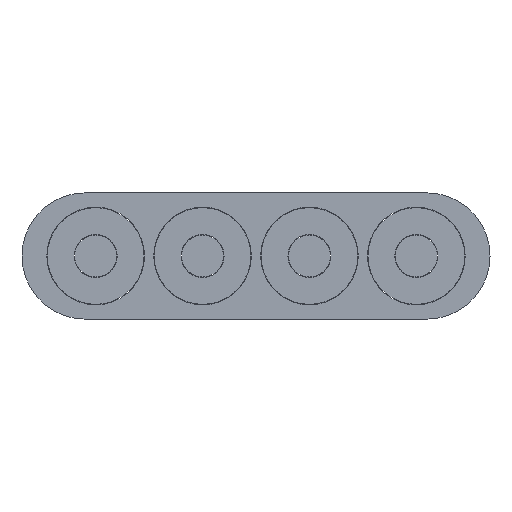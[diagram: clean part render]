
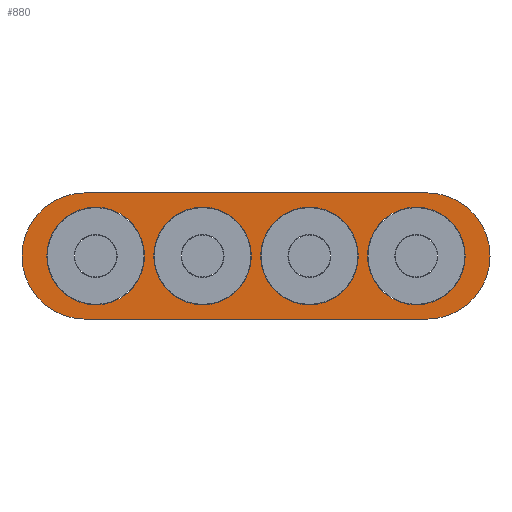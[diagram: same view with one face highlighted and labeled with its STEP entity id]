
A CAD part, front view. The second image highlights one B-rep face of the part: STEP entity #880.
In plain terms, the highlighted planar face has unit normal (0, -1, 0).
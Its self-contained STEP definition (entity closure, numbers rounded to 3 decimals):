
#5 = CARTESIAN_POINT ( 'NONE',  ( 4.06, 0., -0.75 ) ) ;
#8 = EDGE_LOOP ( 'NONE', ( #954, #567 ) ) ;
#23 = ORIENTED_EDGE ( 'NONE', *, *, #1377, .F. ) ;
#24 = AXIS2_PLACEMENT_3D ( 'NONE', #58, #768, #1474 ) ;
#55 = EDGE_LOOP ( 'NONE', ( #23, #1320, #1303, #686 ) ) ;
#58 = CARTESIAN_POINT ( 'NONE',  ( 0.125, 0., 0. ) ) ;
#93 = DIRECTION ( 'NONE',  ( 0., 1., 0. ) ) ;
#155 = VERTEX_POINT ( 'NONE', #864 ) ;
#174 = EDGE_CURVE ( 'NONE', #597, #839, #1157, .T. ) ;
#187 = CARTESIAN_POINT ( 'NONE',  ( 1.395, 0., 0. ) ) ;
#198 = DIRECTION ( 'NONE',  ( 0., 0., 1. ) ) ;
#206 = PLANE ( 'NONE',  #857 ) ;
#213 = CARTESIAN_POINT ( 'NONE',  ( 3.935, 0., 0. ) ) ;
#224 = DIRECTION ( 'NONE',  ( 0., 1., 0. ) ) ;
#267 = VERTEX_POINT ( 'NONE', #749 ) ;
#277 = CARTESIAN_POINT ( 'NONE',  ( 0.125, 0., 0.58 ) ) ;
#281 = VERTEX_POINT ( 'NONE', #1336 ) ;
#284 = CIRCLE ( 'NONE', #1159, 0.75 ) ;
#286 = DIRECTION ( 'NONE',  ( 0., 1., 0. ) ) ;
#297 = EDGE_LOOP ( 'NONE', ( #620, #851 ) ) ;
#304 = EDGE_CURVE ( 'NONE', #354, #496, #1379, .T. ) ;
#330 = CARTESIAN_POINT ( 'NONE',  ( 0.125, 0., 0. ) ) ;
#335 = AXIS2_PLACEMENT_3D ( 'NONE', #1298, #1209, #1305 ) ;
#337 = LINE ( 'NONE', #1291, #489 ) ;
#350 = CARTESIAN_POINT ( 'NONE',  ( 4.06, 0., 0. ) ) ;
#354 = VERTEX_POINT ( 'NONE', #433 ) ;
#367 = CARTESIAN_POINT ( 'NONE',  ( 3.935, 0., 0. ) ) ;
#383 = EDGE_CURVE ( 'NONE', #1139, #1521, #904, .T. ) ;
#402 = DIRECTION ( 'NONE',  ( 0., 1., 0. ) ) ;
#404 = CARTESIAN_POINT ( 'NONE',  ( 0., 0., 0. ) ) ;
#408 = CARTESIAN_POINT ( 'NONE',  ( 2.665, 0., 0. ) ) ;
#418 = DIRECTION ( 'NONE',  ( 0., 0., 1. ) ) ;
#427 = CARTESIAN_POINT ( 'NONE',  ( 0., 0., -0.75 ) ) ;
#433 = CARTESIAN_POINT ( 'NONE',  ( 0., 0., 0.75 ) ) ;
#435 = FACE_OUTER_BOUND ( 'NONE', #55, .T. ) ;
#458 = AXIS2_PLACEMENT_3D ( 'NONE', #408, #402, #998 ) ;
#489 = VECTOR ( 'NONE', #1432, 1000. ) ;
#496 = VERTEX_POINT ( 'NONE', #1327 ) ;
#497 = AXIS2_PLACEMENT_3D ( 'NONE', #213, #910, #198 ) ;
#541 = EDGE_CURVE ( 'NONE', #155, #281, #856, .T. ) ;
#567 = ORIENTED_EDGE ( 'NONE', *, *, #541, .T. ) ;
#568 = EDGE_CURVE ( 'NONE', #496, #587, #284, .T. ) ;
#569 = CARTESIAN_POINT ( 'NONE',  ( 1.395, 0., 0.58 ) ) ;
#577 = EDGE_CURVE ( 'NONE', #1224, #267, #905, .T. ) ;
#587 = VERTEX_POINT ( 'NONE', #5 ) ;
#597 = VERTEX_POINT ( 'NONE', #1300 ) ;
#618 = ORIENTED_EDGE ( 'NONE', *, *, #786, .T. ) ;
#620 = ORIENTED_EDGE ( 'NONE', *, *, #577, .T. ) ;
#633 = CARTESIAN_POINT ( 'NONE',  ( 3.935, 0., 0.58 ) ) ;
#637 = EDGE_CURVE ( 'NONE', #587, #1073, #337, .T. ) ;
#652 = DIRECTION ( 'NONE',  ( 0., 0., 1. ) ) ;
#666 = CARTESIAN_POINT ( 'NONE',  ( 1.395, 0., 0. ) ) ;
#681 = DIRECTION ( 'NONE',  ( 1., 0., 0. ) ) ;
#682 = CARTESIAN_POINT ( 'NONE',  ( 0., 0., 0. ) ) ;
#686 = ORIENTED_EDGE ( 'NONE', *, *, #304, .F. ) ;
#720 = CARTESIAN_POINT ( 'NONE',  ( 1.395, 0., -0.58 ) ) ;
#749 = CARTESIAN_POINT ( 'NONE',  ( 3.935, 0., -0.58 ) ) ;
#767 = DIRECTION ( 'NONE',  ( 0., 0., 1. ) ) ;
#768 = DIRECTION ( 'NONE',  ( 0., 1., 0. ) ) ;
#786 = EDGE_CURVE ( 'NONE', #1521, #1139, #959, .T. ) ;
#807 = VECTOR ( 'NONE', #681, 1000. ) ;
#839 = VERTEX_POINT ( 'NONE', #277 ) ;
#850 = EDGE_CURVE ( 'NONE', #281, #155, #1261, .T. ) ;
#851 = ORIENTED_EDGE ( 'NONE', *, *, #906, .T. ) ;
#856 = CIRCLE ( 'NONE', #335, 0.58 ) ;
#857 = AXIS2_PLACEMENT_3D ( 'NONE', #682, #93, #1350 ) ;
#864 = CARTESIAN_POINT ( 'NONE',  ( 2.665, 0., -0.58 ) ) ;
#869 = FACE_BOUND ( 'NONE', #297, .T. ) ;
#880 = ADVANCED_FACE ( 'NONE', ( #1389, #1006, #1275, #869, #435 ), #206, .F. ) ;
#883 = ORIENTED_EDGE ( 'NONE', *, *, #174, .T. ) ;
#889 = ORIENTED_EDGE ( 'NONE', *, *, #999, .T. ) ;
#904 = CIRCLE ( 'NONE', #1028, 0.58 ) ;
#905 = CIRCLE ( 'NONE', #1210, 0.58 ) ;
#906 = EDGE_CURVE ( 'NONE', #267, #1224, #970, .T. ) ;
#909 = DIRECTION ( 'NONE',  ( 0., 1., 0. ) ) ;
#910 = DIRECTION ( 'NONE',  ( 0., 1., 0. ) ) ;
#949 = DIRECTION ( 'NONE',  ( 0., 1., 0. ) ) ;
#954 = ORIENTED_EDGE ( 'NONE', *, *, #850, .T. ) ;
#959 = CIRCLE ( 'NONE', #982, 0.58 ) ;
#970 = CIRCLE ( 'NONE', #497, 0.58 ) ;
#982 = AXIS2_PLACEMENT_3D ( 'NONE', #187, #1019, #652 ) ;
#998 = DIRECTION ( 'NONE',  ( 0., 0., 1. ) ) ;
#999 = EDGE_CURVE ( 'NONE', #839, #597, #1469, .T. ) ;
#1006 = FACE_BOUND ( 'NONE', #1399, .T. ) ;
#1019 = DIRECTION ( 'NONE',  ( 0., 1., 0. ) ) ;
#1028 = AXIS2_PLACEMENT_3D ( 'NONE', #666, #909, #418 ) ;
#1040 = AXIS2_PLACEMENT_3D ( 'NONE', #330, #224, #1262 ) ;
#1046 = CARTESIAN_POINT ( 'NONE',  ( 0., 0., 0.75 ) ) ;
#1058 = AXIS2_PLACEMENT_3D ( 'NONE', #404, #286, #767 ) ;
#1073 = VERTEX_POINT ( 'NONE', #427 ) ;
#1139 = VERTEX_POINT ( 'NONE', #720 ) ;
#1157 = CIRCLE ( 'NONE', #24, 0.58 ) ;
#1159 = AXIS2_PLACEMENT_3D ( 'NONE', #350, #949, #1430 ) ;
#1187 = DIRECTION ( 'NONE',  ( 0., 1., 0. ) ) ;
#1195 = DIRECTION ( 'NONE',  ( 0., 0., 1. ) ) ;
#1209 = DIRECTION ( 'NONE',  ( 0., 1., 0. ) ) ;
#1210 = AXIS2_PLACEMENT_3D ( 'NONE', #367, #1187, #1195 ) ;
#1224 = VERTEX_POINT ( 'NONE', #633 ) ;
#1260 = ORIENTED_EDGE ( 'NONE', *, *, #383, .T. ) ;
#1261 = CIRCLE ( 'NONE', #458, 0.58 ) ;
#1262 = DIRECTION ( 'NONE',  ( 0., 0., 1. ) ) ;
#1275 = FACE_BOUND ( 'NONE', #8, .T. ) ;
#1288 = CIRCLE ( 'NONE', #1058, 0.75 ) ;
#1291 = CARTESIAN_POINT ( 'NONE',  ( 0., 0., -0.75 ) ) ;
#1298 = CARTESIAN_POINT ( 'NONE',  ( 2.665, 0., 0. ) ) ;
#1300 = CARTESIAN_POINT ( 'NONE',  ( 0.125, 0., -0.58 ) ) ;
#1303 = ORIENTED_EDGE ( 'NONE', *, *, #568, .F. ) ;
#1305 = DIRECTION ( 'NONE',  ( 0., 0., 1. ) ) ;
#1309 = EDGE_LOOP ( 'NONE', ( #889, #883 ) ) ;
#1320 = ORIENTED_EDGE ( 'NONE', *, *, #637, .F. ) ;
#1327 = CARTESIAN_POINT ( 'NONE',  ( 4.06, 0., 0.75 ) ) ;
#1336 = CARTESIAN_POINT ( 'NONE',  ( 2.665, 0., 0.58 ) ) ;
#1350 = DIRECTION ( 'NONE',  ( 0., 0., 1. ) ) ;
#1377 = EDGE_CURVE ( 'NONE', #1073, #354, #1288, .T. ) ;
#1379 = LINE ( 'NONE', #1046, #807 ) ;
#1389 = FACE_BOUND ( 'NONE', #1309, .T. ) ;
#1399 = EDGE_LOOP ( 'NONE', ( #618, #1260 ) ) ;
#1430 = DIRECTION ( 'NONE',  ( 0., 0., 1. ) ) ;
#1432 = DIRECTION ( 'NONE',  ( -1., 0., 0. ) ) ;
#1469 = CIRCLE ( 'NONE', #1040, 0.58 ) ;
#1474 = DIRECTION ( 'NONE',  ( 0., 0., 1. ) ) ;
#1521 = VERTEX_POINT ( 'NONE', #569 ) ;
